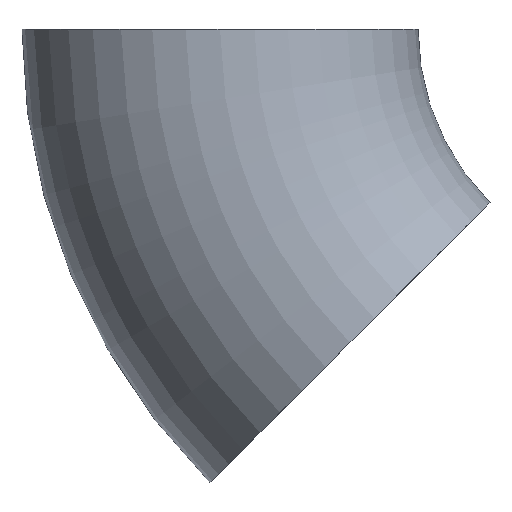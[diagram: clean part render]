
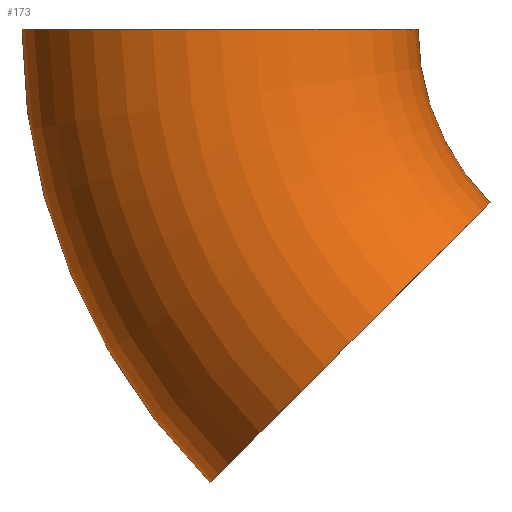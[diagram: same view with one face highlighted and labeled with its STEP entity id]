
A CAD part, front view. The second image highlights one B-rep face of the part: STEP entity #173.
In plain terms, the highlighted toroidal (fillet/blend) face has major radius 47.5 mm and minor radius 21.2 mm.
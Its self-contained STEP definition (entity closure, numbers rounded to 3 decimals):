
#10 = VERTEX_POINT ( 'NONE', #71 ) ;
#26 = AXIS2_PLACEMENT_3D ( 'NONE', #252, #39, #186 ) ;
#31 = DIRECTION ( 'NONE',  ( 0.707, 0., 0.707 ) ) ;
#37 = CIRCLE ( 'NONE', #68, 21.2 ) ;
#39 = DIRECTION ( 'NONE',  ( 0., 1., 0. ) ) ;
#50 = CIRCLE ( 'NONE', #119, 21.2 ) ;
#57 = FACE_OUTER_BOUND ( 'NONE', #130, .T. ) ;
#59 = CARTESIAN_POINT ( 'NONE',  ( -18.597, 0., -18.597 ) ) ;
#60 = CIRCLE ( 'NONE', #152, 26.3 ) ;
#68 = AXIS2_PLACEMENT_3D ( 'NONE', #171, #188, #250 ) ;
#71 = CARTESIAN_POINT ( 'NONE',  ( -26.3, 0., 0. ) ) ;
#72 = EDGE_CURVE ( 'NONE', #219, #161, #50, .T. ) ;
#79 = DIRECTION ( 'NONE',  ( 0., 0., 1. ) ) ;
#107 = CIRCLE ( 'NONE', #243, 68.7 ) ;
#117 = CARTESIAN_POINT ( 'NONE',  ( 0., 0., 0. ) ) ;
#119 = AXIS2_PLACEMENT_3D ( 'NONE', #223, #227, #31 ) ;
#120 = CARTESIAN_POINT ( 'NONE',  ( 0., 0., 0. ) ) ;
#130 = EDGE_LOOP ( 'NONE', ( #154, #202, #183, #182 ) ) ;
#134 = DIRECTION ( 'NONE',  ( 0., 1., 0. ) ) ;
#137 = DIRECTION ( 'NONE',  ( 0., 0., 1. ) ) ;
#138 = TOROIDAL_SURFACE ( 'NONE', #26, 47.5, 21.2 ) ;
#146 = EDGE_CURVE ( 'NONE', #198, #10, #37, .T. ) ;
#152 = AXIS2_PLACEMENT_3D ( 'NONE', #120, #249, #137 ) ;
#154 = ORIENTED_EDGE ( 'NONE', *, *, #160, .F. ) ;
#155 = CARTESIAN_POINT ( 'NONE',  ( -68.7, 0., 0. ) ) ;
#156 = CARTESIAN_POINT ( 'NONE',  ( -48.578, 0., -48.578 ) ) ;
#160 = EDGE_CURVE ( 'NONE', #219, #198, #107, .T. ) ;
#161 = VERTEX_POINT ( 'NONE', #59 ) ;
#171 = CARTESIAN_POINT ( 'NONE',  ( -47.5, 0., 0. ) ) ;
#173 = ADVANCED_FACE ( 'NONE', ( #57 ), #138, .T. ) ;
#182 = ORIENTED_EDGE ( 'NONE', *, *, #146, .F. ) ;
#183 = ORIENTED_EDGE ( 'NONE', *, *, #195, .T. ) ;
#186 = DIRECTION ( 'NONE',  ( 0., 0., 1. ) ) ;
#188 = DIRECTION ( 'NONE',  ( 0., 0., 1. ) ) ;
#195 = EDGE_CURVE ( 'NONE', #161, #10, #60, .T. ) ;
#198 = VERTEX_POINT ( 'NONE', #155 ) ;
#202 = ORIENTED_EDGE ( 'NONE', *, *, #72, .T. ) ;
#219 = VERTEX_POINT ( 'NONE', #156 ) ;
#223 = CARTESIAN_POINT ( 'NONE',  ( -33.588, 0., -33.588 ) ) ;
#227 = DIRECTION ( 'NONE',  ( -0.707, 0., 0.707 ) ) ;
#243 = AXIS2_PLACEMENT_3D ( 'NONE', #117, #134, #79 ) ;
#249 = DIRECTION ( 'NONE',  ( 0., 1., 0. ) ) ;
#250 = DIRECTION ( 'NONE',  ( 1., 0., 0. ) ) ;
#252 = CARTESIAN_POINT ( 'NONE',  ( 0., 0., 0. ) ) ;
